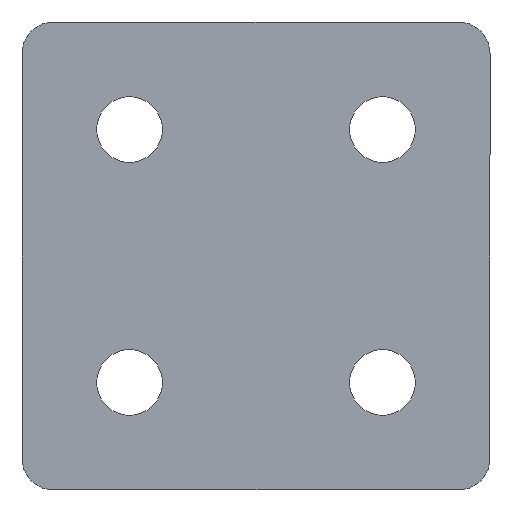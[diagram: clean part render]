
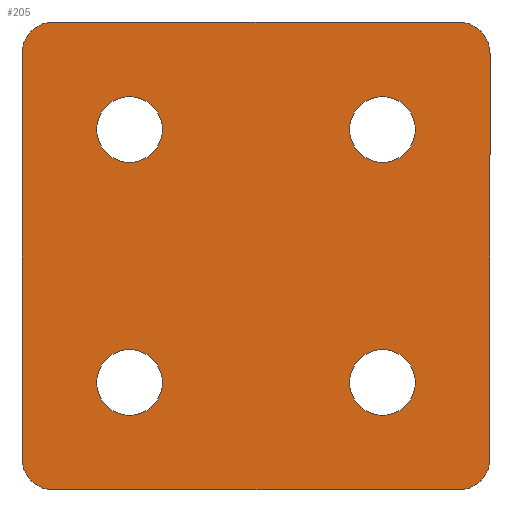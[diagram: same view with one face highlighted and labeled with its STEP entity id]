
A CAD part, front view. The second image highlights one B-rep face of the part: STEP entity #205.
In plain terms, the highlighted planar face has unit normal (0, -1, 0).
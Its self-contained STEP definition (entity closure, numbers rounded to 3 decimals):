
#1 = AXIS2_PLACEMENT_3D ( 'NONE', #642, #116, #320 ) ;
#2 = LINE ( 'NONE', #548, #518 ) ;
#8 = VERTEX_POINT ( 'NONE', #141 ) ;
#9 = FACE_BOUND ( 'NONE', #362, .T. ) ;
#11 = AXIS2_PLACEMENT_3D ( 'NONE', #253, #632, #578 ) ;
#12 = ORIENTED_EDGE ( 'NONE', *, *, #352, .T. ) ;
#16 = ORIENTED_EDGE ( 'NONE', *, *, #113, .T. ) ;
#17 = CARTESIAN_POINT ( 'NONE',  ( 10., 0., 17.4 ) ) ;
#21 = FACE_BOUND ( 'NONE', #423, .T. ) ;
#22 = CARTESIAN_POINT ( 'NONE',  ( 18.5, 0., -6. ) ) ;
#25 = EDGE_LOOP ( 'NONE', ( #535, #264, #48, #91, #589, #12, #285, #155 ) ) ;
#27 = CARTESIAN_POINT ( 'NONE',  ( -16., 0., 26. ) ) ;
#35 = CARTESIAN_POINT ( 'NONE',  ( -10., 0., 20. ) ) ;
#38 = DIRECTION ( 'NONE',  ( 0., 1., 0. ) ) ;
#47 = DIRECTION ( 'NONE',  ( 0., 1., 0. ) ) ;
#48 = ORIENTED_EDGE ( 'NONE', *, *, #64, .F. ) ;
#55 = VERTEX_POINT ( 'NONE', #83 ) ;
#57 = CIRCLE ( 'NONE', #411, 2.6 ) ;
#64 = EDGE_CURVE ( 'NONE', #610, #195, #2, .T. ) ;
#66 = DIRECTION ( 'NONE',  ( 1., 0., 0. ) ) ;
#69 = DIRECTION ( 'NONE',  ( 0., -1., 0. ) ) ;
#72 = DIRECTION ( 'NONE',  ( 0., -1., 0. ) ) ;
#77 = DIRECTION ( 'NONE',  ( 0., 0., -1. ) ) ;
#78 = CIRCLE ( 'NONE', #341, 2.6 ) ;
#83 = CARTESIAN_POINT ( 'NONE',  ( -10., 0., -2.6 ) ) ;
#89 = DIRECTION ( 'NONE',  ( 0., -1., 0. ) ) ;
#90 = DIRECTION ( 'NONE',  ( 0., 1., 0. ) ) ;
#91 = ORIENTED_EDGE ( 'NONE', *, *, #549, .T. ) ;
#95 = DIRECTION ( 'NONE',  ( -1., 0., 0. ) ) ;
#100 = EDGE_CURVE ( 'NONE', #477, #55, #133, .T. ) ;
#103 = AXIS2_PLACEMENT_3D ( 'NONE', #35, #661, #135 ) ;
#111 = CIRCLE ( 'NONE', #11, 2.5 ) ;
#113 = EDGE_CURVE ( 'NONE', #541, #475, #660, .T. ) ;
#114 = LINE ( 'NONE', #206, #157 ) ;
#116 = DIRECTION ( 'NONE',  ( 0., 1., 0. ) ) ;
#122 = CARTESIAN_POINT ( 'NONE',  ( 16., 0., 28.5 ) ) ;
#126 = CIRCLE ( 'NONE', #354, 2.6 ) ;
#133 = CIRCLE ( 'NONE', #1, 2.6 ) ;
#135 = DIRECTION ( 'NONE',  ( 0., 0., 1. ) ) ;
#136 = VERTEX_POINT ( 'NONE', #221 ) ;
#139 = EDGE_CURVE ( 'NONE', #170, #466, #344, .T. ) ;
#141 = CARTESIAN_POINT ( 'NONE',  ( -18.5, 0., 26. ) ) ;
#155 = ORIENTED_EDGE ( 'NONE', *, *, #536, .T. ) ;
#157 = VECTOR ( 'NONE', #95, 1000. ) ;
#160 = CIRCLE ( 'NONE', #313, 2.5 ) ;
#170 = VERTEX_POINT ( 'NONE', #17 ) ;
#174 = CARTESIAN_POINT ( 'NONE',  ( -10., 0., 0. ) ) ;
#176 = FACE_BOUND ( 'NONE', #615, .T. ) ;
#178 = ORIENTED_EDGE ( 'NONE', *, *, #645, .T. ) ;
#179 = EDGE_CURVE ( 'NONE', #55, #477, #558, .T. ) ;
#192 = CARTESIAN_POINT ( 'NONE',  ( -16., 0., -8.5 ) ) ;
#193 = DIRECTION ( 'NONE',  ( 0., 0., 1. ) ) ;
#195 = VERTEX_POINT ( 'NONE', #122 ) ;
#205 = ADVANCED_FACE ( 'NONE', ( #577, #9, #21, #176, #413 ), #426, .T. ) ;
#206 = CARTESIAN_POINT ( 'NONE',  ( 18.5, 0., -8.5 ) ) ;
#210 = AXIS2_PLACEMENT_3D ( 'NONE', #490, #72, #393 ) ;
#217 = CARTESIAN_POINT ( 'NONE',  ( -18.5, 0., -6. ) ) ;
#221 = CARTESIAN_POINT ( 'NONE',  ( 16., 0., -8.5 ) ) ;
#224 = AXIS2_PLACEMENT_3D ( 'NONE', #554, #90, #664 ) ;
#227 = LINE ( 'NONE', #542, #527 ) ;
#230 = AXIS2_PLACEMENT_3D ( 'NONE', #174, #538, #371 ) ;
#232 = DIRECTION ( 'NONE',  ( 0., 0., 1. ) ) ;
#239 = DIRECTION ( 'NONE',  ( 0., 1., 0. ) ) ;
#253 = CARTESIAN_POINT ( 'NONE',  ( 16., 0., 26. ) ) ;
#264 = ORIENTED_EDGE ( 'NONE', *, *, #404, .T. ) ;
#265 = VERTEX_POINT ( 'NONE', #598 ) ;
#276 = CARTESIAN_POINT ( 'NONE',  ( -16., 0., 28.5 ) ) ;
#285 = ORIENTED_EDGE ( 'NONE', *, *, #625, .F. ) ;
#313 = AXIS2_PLACEMENT_3D ( 'NONE', #389, #89, #77 ) ;
#320 = DIRECTION ( 'NONE',  ( 0., 0., 1. ) ) ;
#321 = EDGE_CURVE ( 'NONE', #375, #8, #634, .T. ) ;
#326 = VECTOR ( 'NONE', #337, 1000. ) ;
#328 = DIRECTION ( 'NONE',  ( 0., 0., -1. ) ) ;
#329 = AXIS2_PLACEMENT_3D ( 'NONE', #446, #38, #193 ) ;
#337 = DIRECTION ( 'NONE',  ( 0., 0., 1. ) ) ;
#341 = AXIS2_PLACEMENT_3D ( 'NONE', #600, #493, #232 ) ;
#342 = CARTESIAN_POINT ( 'NONE',  ( 10., 0., 22.6 ) ) ;
#344 = CIRCLE ( 'NONE', #329, 2.6 ) ;
#345 = CARTESIAN_POINT ( 'NONE',  ( 10., 0., 20. ) ) ;
#351 = ORIENTED_EDGE ( 'NONE', *, *, #179, .T. ) ;
#352 = EDGE_CURVE ( 'NONE', #375, #474, #581, .T. ) ;
#354 = AXIS2_PLACEMENT_3D ( 'NONE', #345, #239, #556 ) ;
#362 = EDGE_LOOP ( 'NONE', ( #590, #16 ) ) ;
#367 = VERTEX_POINT ( 'NONE', #628 ) ;
#371 = DIRECTION ( 'NONE',  ( 0., 0., 1. ) ) ;
#374 = AXIS2_PLACEMENT_3D ( 'NONE', #27, #437, #376 ) ;
#375 = VERTEX_POINT ( 'NONE', #217 ) ;
#376 = DIRECTION ( 'NONE',  ( 0., 0., -1. ) ) ;
#381 = CARTESIAN_POINT ( 'NONE',  ( -10., 0., 17.4 ) ) ;
#384 = AXIS2_PLACEMENT_3D ( 'NONE', #483, #69, #482 ) ;
#385 = EDGE_LOOP ( 'NONE', ( #504, #445 ) ) ;
#387 = CARTESIAN_POINT ( 'NONE',  ( 18.5, 0., 26. ) ) ;
#389 = CARTESIAN_POINT ( 'NONE',  ( 16., 0., -6. ) ) ;
#392 = CARTESIAN_POINT ( 'NONE',  ( -10., 0., 22.6 ) ) ;
#393 = DIRECTION ( 'NONE',  ( 0., 0., -1. ) ) ;
#404 = EDGE_CURVE ( 'NONE', #484, #195, #111, .T. ) ;
#411 = AXIS2_PLACEMENT_3D ( 'NONE', #559, #47, #508 ) ;
#413 = FACE_OUTER_BOUND ( 'NONE', #25, .T. ) ;
#415 = ORIENTED_EDGE ( 'NONE', *, *, #100, .T. ) ;
#423 = EDGE_LOOP ( 'NONE', ( #524, #178 ) ) ;
#426 = PLANE ( 'NONE',  #384 ) ;
#437 = DIRECTION ( 'NONE',  ( 0., -1., 0. ) ) ;
#438 = CARTESIAN_POINT ( 'NONE',  ( -18.5, 0., -8.5 ) ) ;
#442 = CARTESIAN_POINT ( 'NONE',  ( -10., 0., 2.6 ) ) ;
#445 = ORIENTED_EDGE ( 'NONE', *, *, #139, .T. ) ;
#446 = CARTESIAN_POINT ( 'NONE',  ( 10., 0., 20. ) ) ;
#466 = VERTEX_POINT ( 'NONE', #342 ) ;
#474 = VERTEX_POINT ( 'NONE', #192 ) ;
#475 = VERTEX_POINT ( 'NONE', #392 ) ;
#477 = VERTEX_POINT ( 'NONE', #442 ) ;
#482 = DIRECTION ( 'NONE',  ( 0., 0., -1. ) ) ;
#483 = CARTESIAN_POINT ( 'NONE',  ( 0., 0., 0. ) ) ;
#484 = VERTEX_POINT ( 'NONE', #387 ) ;
#490 = CARTESIAN_POINT ( 'NONE',  ( -16., 0., -6. ) ) ;
#493 = DIRECTION ( 'NONE',  ( 0., 1., 0. ) ) ;
#502 = EDGE_CURVE ( 'NONE', #475, #541, #618, .T. ) ;
#504 = ORIENTED_EDGE ( 'NONE', *, *, #513, .T. ) ;
#508 = DIRECTION ( 'NONE',  ( 0., 0., 1. ) ) ;
#513 = EDGE_CURVE ( 'NONE', #466, #170, #126, .T. ) ;
#518 = VECTOR ( 'NONE', #66, 1000. ) ;
#524 = ORIENTED_EDGE ( 'NONE', *, *, #573, .T. ) ;
#527 = VECTOR ( 'NONE', #328, 1000. ) ;
#535 = ORIENTED_EDGE ( 'NONE', *, *, #585, .F. ) ;
#536 = EDGE_CURVE ( 'NONE', #136, #574, #160, .T. ) ;
#538 = DIRECTION ( 'NONE',  ( 0., 1., 0. ) ) ;
#541 = VERTEX_POINT ( 'NONE', #381 ) ;
#542 = CARTESIAN_POINT ( 'NONE',  ( 18.5, 0., 28.5 ) ) ;
#548 = CARTESIAN_POINT ( 'NONE',  ( -18.5, 0., 28.5 ) ) ;
#549 = EDGE_CURVE ( 'NONE', #610, #8, #672, .T. ) ;
#554 = CARTESIAN_POINT ( 'NONE',  ( -10., 0., 20. ) ) ;
#556 = DIRECTION ( 'NONE',  ( 0., 0., 1. ) ) ;
#558 = CIRCLE ( 'NONE', #230, 2.6 ) ;
#559 = CARTESIAN_POINT ( 'NONE',  ( 10., 0., 0. ) ) ;
#573 = EDGE_CURVE ( 'NONE', #265, #367, #78, .T. ) ;
#574 = VERTEX_POINT ( 'NONE', #22 ) ;
#577 = FACE_BOUND ( 'NONE', #385, .T. ) ;
#578 = DIRECTION ( 'NONE',  ( 0., 0., -1. ) ) ;
#581 = CIRCLE ( 'NONE', #210, 2.5 ) ;
#585 = EDGE_CURVE ( 'NONE', #484, #574, #227, .T. ) ;
#589 = ORIENTED_EDGE ( 'NONE', *, *, #321, .F. ) ;
#590 = ORIENTED_EDGE ( 'NONE', *, *, #502, .T. ) ;
#598 = CARTESIAN_POINT ( 'NONE',  ( 10., 0., 2.6 ) ) ;
#600 = CARTESIAN_POINT ( 'NONE',  ( 10., 0., 0. ) ) ;
#610 = VERTEX_POINT ( 'NONE', #276 ) ;
#615 = EDGE_LOOP ( 'NONE', ( #415, #351 ) ) ;
#618 = CIRCLE ( 'NONE', #103, 2.6 ) ;
#625 = EDGE_CURVE ( 'NONE', #136, #474, #114, .T. ) ;
#628 = CARTESIAN_POINT ( 'NONE',  ( 10., 0., -2.6 ) ) ;
#632 = DIRECTION ( 'NONE',  ( 0., -1., 0. ) ) ;
#634 = LINE ( 'NONE', #438, #326 ) ;
#642 = CARTESIAN_POINT ( 'NONE',  ( -10., 0., 0. ) ) ;
#645 = EDGE_CURVE ( 'NONE', #367, #265, #57, .T. ) ;
#660 = CIRCLE ( 'NONE', #224, 2.6 ) ;
#661 = DIRECTION ( 'NONE',  ( 0., 1., 0. ) ) ;
#664 = DIRECTION ( 'NONE',  ( 0., 0., 1. ) ) ;
#672 = CIRCLE ( 'NONE', #374, 2.5 ) ;
